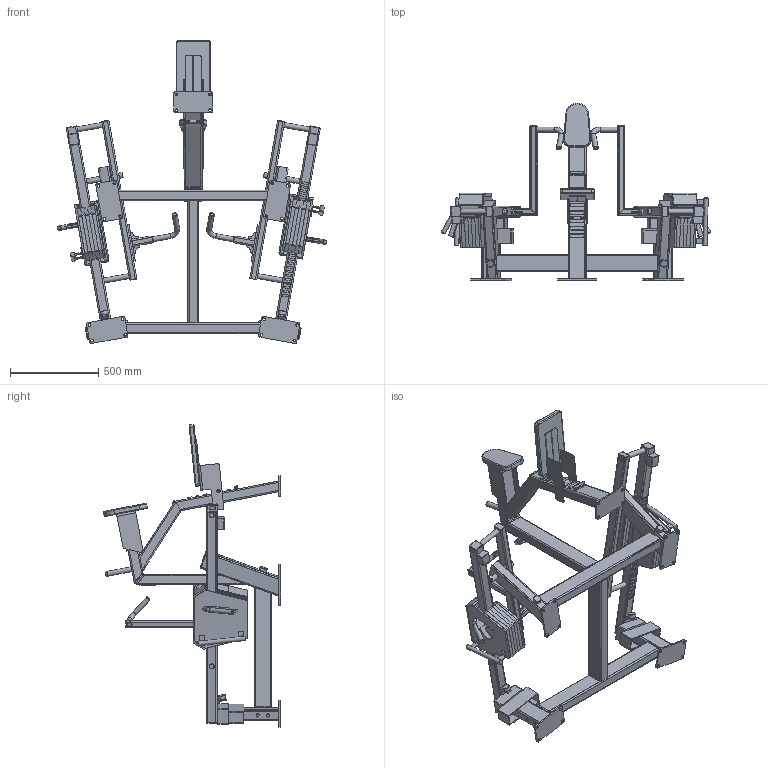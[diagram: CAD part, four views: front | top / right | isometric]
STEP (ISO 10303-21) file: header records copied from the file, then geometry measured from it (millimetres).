
FILE_DESCRIPTION(/* description */ (''),/* implementation_level */ '2;1');
FILE_NAME(/* name */ 'OG22_3D_dwg_Low.step',/* time_stamp */ '2025-11-11T15:59:55+02:00',/* author */ (''),/* organization */ (''),/* preprocessor_version */ 'ST-DEVELOPER v20.1',/* originating_system */ 'Autodesk Translation Framework v14.21.0.0',/* authorisation */ '');
FILE_SCHEMA (('AUTOMOTIVE_DESIGN { 1 0 10303 214 3 1 1 }'));
Products named in the file (1): OG22_3D_dwg_Low
Bounding box: 1526.54 x 1004.05 x 1716.85 mm (x, y, z)
Volume: 33497994.4 mm3; surface area: 9549994.7 mm2
Topology: 142 solids, 142 shells, 2308 faces, 5711 edges, 3683 vertices
Faces by surface type: plane 1174, cylinder 1024, bspline 47, torus 26, cone 21, sphere 16
Full cylindrical faces by diameter (mm): 5 x1, 6.8 x4, 7 x2, 8.5 x1, 10 x5, 10.2 x68, 11.8 x1, 13 x33, 14 x8, 15 x20, 16.165 x6, 17.5 x64, 18 x14, 20 x6, 20.206 x60, 21 x2, 24 x3, 24.96 x4, 25 x10, 28 x17, 28.1 x8, 28.2 x1, 30 x8, 42 x4
Entity records: 107778 total; most frequent: CARTESIAN_POINT 52447, ORIENTED_EDGE 11378, DIRECTION 11323, EDGE_CURVE 5689, AXIS2_PLACEMENT_3D 3926, VERTEX_POINT 3683, LINE 3471, VECTOR 3471
